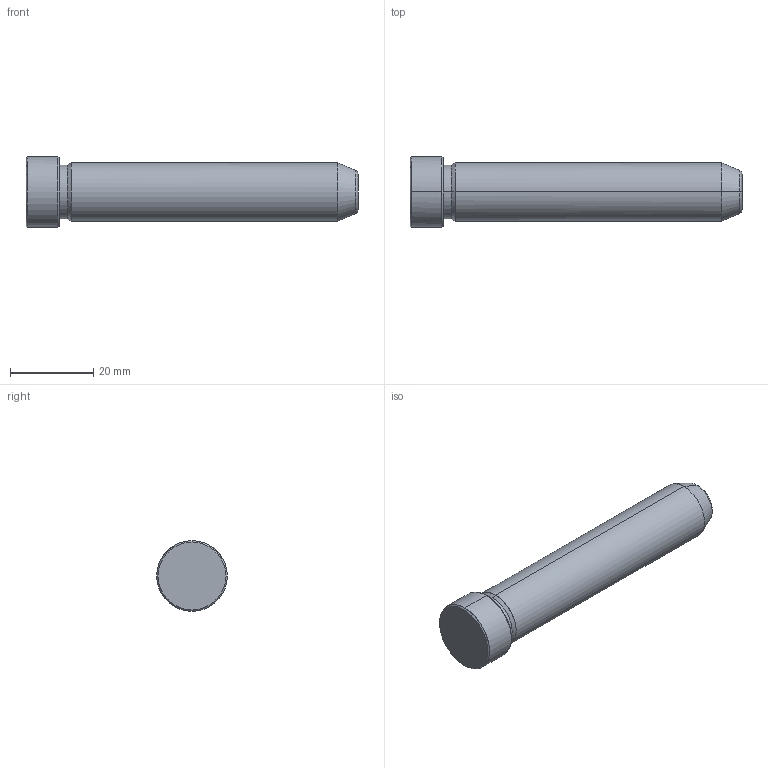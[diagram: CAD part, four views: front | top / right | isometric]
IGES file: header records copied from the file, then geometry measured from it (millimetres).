
Start section: START RECORD GO HERE.
Global section: file name: 549-14X80.igs; native system: DASSAULT SYSTEMES CATIA V5 R20 - www.3ds.com; preprocessor: CATIA Version 5 Release 20 ; author: Utente; organization: NB04-ASUS; date: 20211211.102742; units: millimetre
Bounding box: 80 x 17 x 17 mm (x, y, z)
Surface area: 3949.9 mm2 (no closed solid volume)
Topology: 0 solids, 0 shells, 19 faces, 112 edges, 112 vertices
Faces by surface type: revolution 16, plane 3
